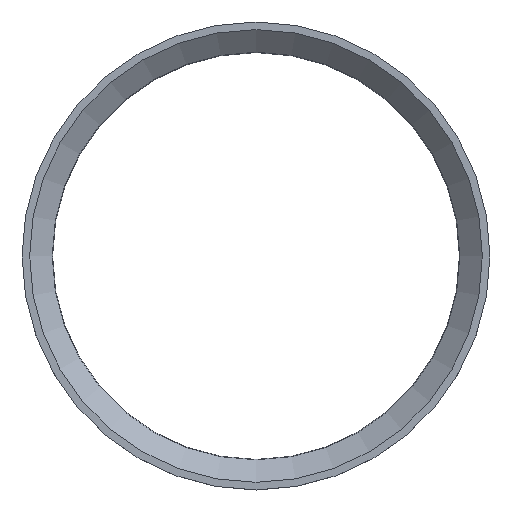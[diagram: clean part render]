
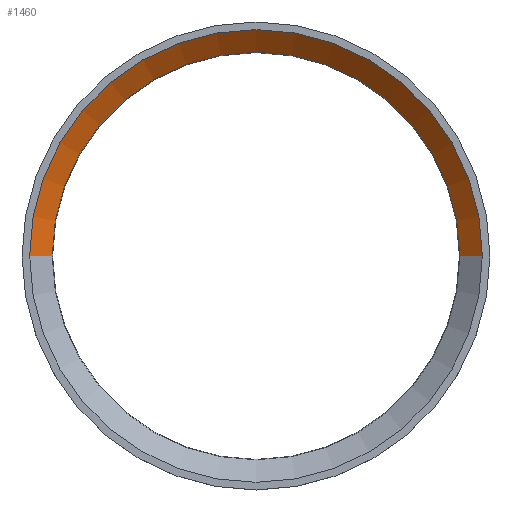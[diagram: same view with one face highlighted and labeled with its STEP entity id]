
A CAD part, top view. The second image highlights one B-rep face of the part: STEP entity #1460.
In plain terms, the highlighted conical face has half-angle 50 degrees and reference radius 225.357 mm.
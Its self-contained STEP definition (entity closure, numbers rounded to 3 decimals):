
#152=DIRECTION('',(-0.766,0.,-0.643));
#153=VECTOR('',#152,30.397);
#154=CARTESIAN_POINT('',(237.,0.,35.));
#155=LINE('',#154,#153);
#156=CARTESIAN_POINT('',(0.,0.,
15.461));
#157=DIRECTION('',(0.,0.,1.));
#158=DIRECTION('',(1.,0.,0.));
#159=AXIS2_PLACEMENT_3D('',#156,#157,#158);
#161=DIRECTION('',(0.766,0.,-0.643));
#162=VECTOR('',#161,30.397);
#163=CARTESIAN_POINT('',(-237.,0.,
35.));
#164=LINE('',#163,#162);
#180=CARTESIAN_POINT('',(0.,0.,
35.));
#181=DIRECTION('',(0.,0.,-1.));
#182=DIRECTION('',(-1.,0.,0.));
#183=AXIS2_PLACEMENT_3D('',#180,#181,#182);
#1015=CARTESIAN_POINT('',(237.,0.,
35.));
#1016=CARTESIAN_POINT('',(-237.,0.,
35.));
#1017=VERTEX_POINT('',#1015);
#1018=VERTEX_POINT('',#1016);
#1023=CARTESIAN_POINT('',(-213.714,0.,
15.461));
#1024=CARTESIAN_POINT('',(213.714,0.,15.461));
#1025=VERTEX_POINT('',#1023);
#1026=VERTEX_POINT('',#1024);
#1448=CARTESIAN_POINT('',(0.,0.,
25.231));
#1449=DIRECTION('',(0.,0.,1.));
#1450=DIRECTION('',(0.,-1.,0.));
#1451=AXIS2_PLACEMENT_3D('',#1448,#1449,#1450);
#1452=CONICAL_SURFACE('',#1451,225.357,50.);
#1453=ORIENTED_EDGE('',*,*,#1413,.T.);
#1454=ORIENTED_EDGE('',*,*,#1443,.F.);
#1456=ORIENTED_EDGE('',*,*,#1455,.T.);
#1457=ORIENTED_EDGE('',*,*,#1439,.T.);
#1458=EDGE_LOOP('',(#1453,#1454,#1456,#1457));
#1459=FACE_OUTER_BOUND('',#1458,.F.);
#160=CIRCLE('',#159,213.714);
#184=CIRCLE('',#183,237.);
#1413=EDGE_CURVE('',#1026,#1025,#160,.T.);
#1439=EDGE_CURVE('',#1017,#1026,#155,.T.);
#1443=EDGE_CURVE('',#1018,#1025,#164,.T.);
#1455=EDGE_CURVE('',#1018,#1017,#184,.T.);
#1460=ADVANCED_FACE('',(#1459),#1452,.F.);
